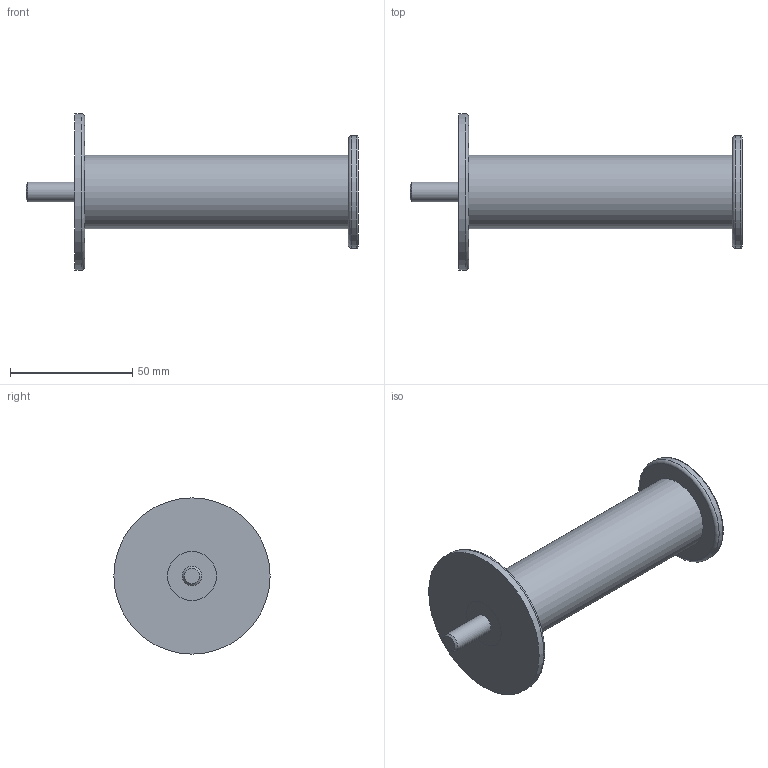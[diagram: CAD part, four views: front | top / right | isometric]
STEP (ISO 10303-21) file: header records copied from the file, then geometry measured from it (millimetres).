
FILE_DESCRIPTION (( 'STEP AP214' ), '1' );
FILE_NAME ('539.2-30-M8-20-B.step', '2019-04-18T13:28:48', ( 'user' ), ( '' ), 'SwSTEP 2.0', 'SolidWorks 2019', '' );
FILE_SCHEMA (( 'AUTOMOTIVE_DESIGN' ));
Length unit declared in the file: millimetre
Products named in the file (1): 539.2-30-M8-20-B
Bounding box: 135.99 x 64 x 64 mm (x, y, z)
Volume: 96719.2 mm3; surface area: 20170.4 mm2
Topology: 1 solids, 1 shells, 15 faces, 25 edges, 16 vertices
Faces by surface type: plane 6, cylinder 5, torus 3, cone 1
Full cylindrical faces by diameter (mm): 8 x1, 20 x1, 30 x1, 46 x1, 64 x1
Entity records: 372 total; most frequent: DIRECTION 60, CARTESIAN_POINT 44, AXIS2_PLACEMENT_3D 30, EDGE_LOOP 28, ORIENTED_EDGE 28, FACE_OUTER_BOUND 23, ADVANCED_FACE 15, VERTEX_POINT 14
